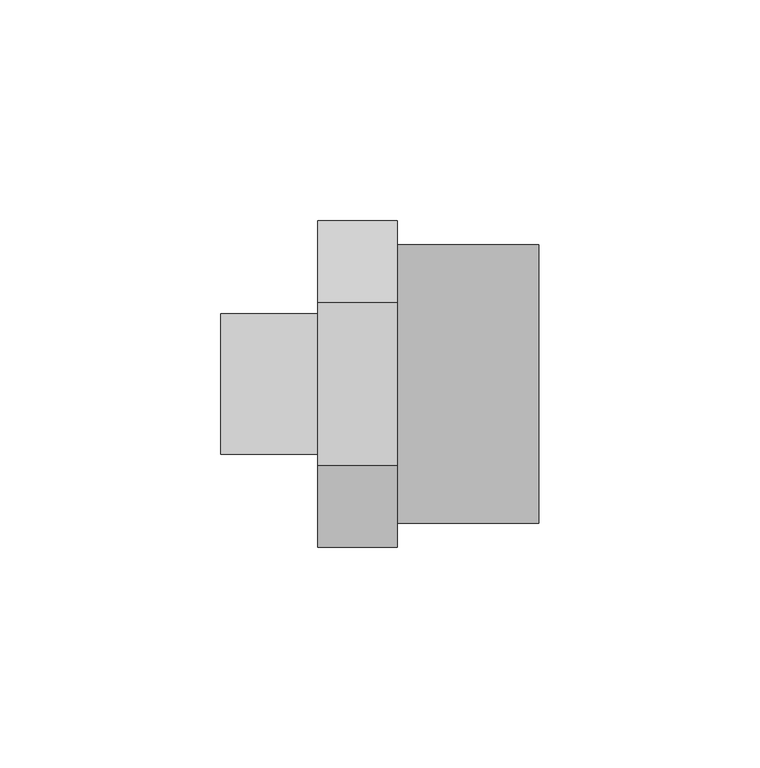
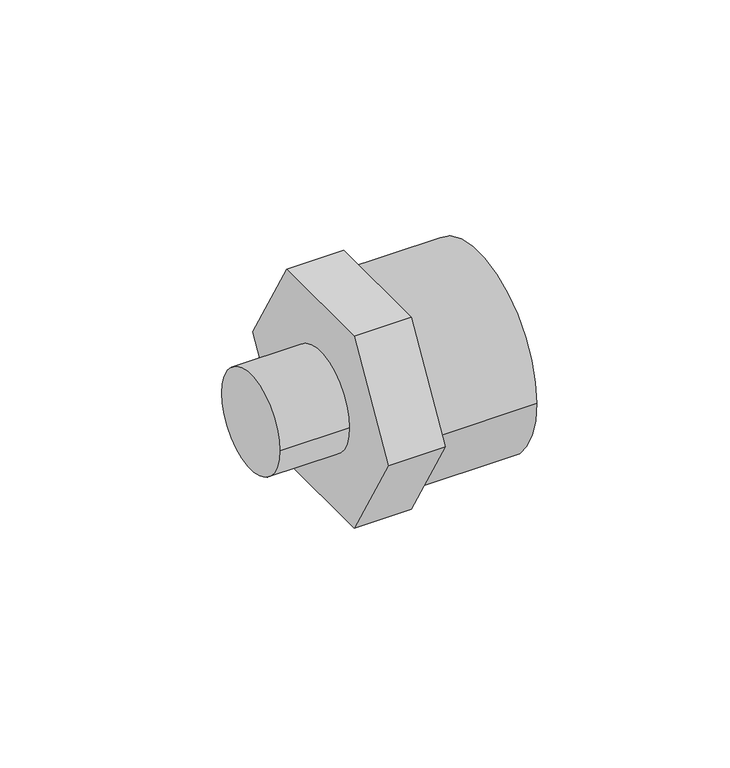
"""IFC4 building model written with IfcOpenShell, lengths in millimetres: pipe fitting geometry, 01101081 : Uniões múltiplas F/M/M."""

from ifc_helpers import new_model, si_unit, point, frame, origin, origin_2d, place, context, project, spatial, polyline, circle_curve, trimmed, segment, composite_curve, outline, extrude, source, transform, mapped, element, save


def pipe_fitting_ba29a239(model_context):
    return source(origin(), model_context, "Body", "SweptSolid", [
        extrude(outline(composite_curve([segment(trimmed(circle_curve(origin_2d(), 15.875), [point((15.875, 0.0))], [point((-15.875, 0.0))], False, "CARTESIAN"), True, "CONTINUOUS"), segment(trimmed(circle_curve(origin_2d(), 15.875), [point((-15.875, 0.0))], [point((15.875, 0.0))], False, "CARTESIAN"), True, "CONTINUOUS")], self_intersect=False)), frame((0.0, 0.0, 0.0), z_axis=(1.0, 0.0, 0.0), x_axis=(0.0, 1.0, 0.0)), (0.0, 0.0, 1.0), 22.0),
        extrude(outline(polyline([(-18.4752086, 32.0), (18.4752086, 32.0), (36.9504172, 0.0), (18.4752086, -32.0), (-18.4752086, -32.0), (-36.9504172, 0.0), (-18.4752086, 32.0)])), frame((22.0, 0.0, 0.0), z_axis=(1.0, 0.0, 0.0), x_axis=(0.0, 1.0, 0.0)), (0.0, 0.0, 1.0), 18.0),
        extrude(outline(composite_curve([segment(trimmed(circle_curve(origin_2d(), 31.5), [point((-31.5, 0.0))], [point((31.5, 0.0))], False, "CARTESIAN"), True, "CONTINUOUS"), segment(trimmed(circle_curve(origin_2d(), 31.5), [point((31.5, 0.0))], [point((-31.5, 0.0))], False, "CARTESIAN"), True, "CONTINUOUS")], self_intersect=False)), frame((40.0, 0.0, 0.0), z_axis=(1.0, 0.0, 0.0), x_axis=(0.0, 1.0, 0.0)), (0.0, 0.0, 1.0), 32.0),
    ])


if __name__ == "__main__":
    model = new_model("IFC4")
    model_context = context("Model", 3, world=origin())
    ifc_project = project(units=[si_unit("LENGTHUNIT", "METRE", prefix="MILLI")], contexts=[model_context])
    site = spatial("IfcSite", under=ifc_project)
    building = spatial("IfcBuilding", under=site)
    placement = place(None, origin())
    pipe_fitting_shape = pipe_fitting_ba29a239(model_context)
    element("IfcPipeFitting", 1, ObjectType="01101081 : Uniões múltiplas F/M/M", at=placement, inside=building, context=model_context, shape_type="MappedRepresentation", body=[
        mapped(pipe_fitting_shape, transform((0.0, 0.0, 0.0), x_axis=(1.0, 0.0, 0.0), y_axis=(0.0, 1.0, 0.0), z_axis=(0.0, 0.0, 1.0))),
    ])
    save(model, "model.ifc")
